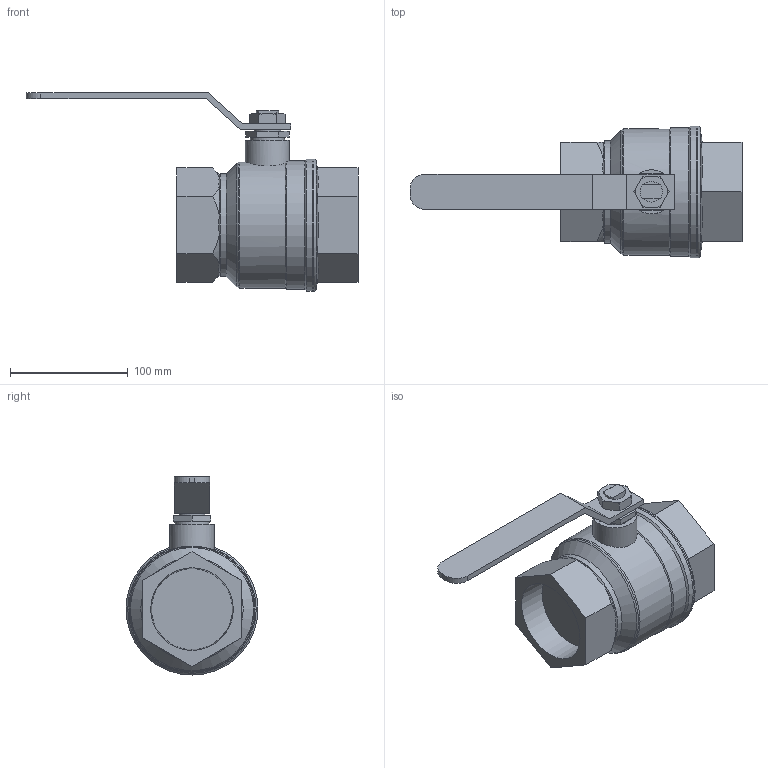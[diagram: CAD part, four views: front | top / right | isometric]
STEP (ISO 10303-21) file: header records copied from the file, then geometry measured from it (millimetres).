
FILE_DESCRIPTION((' '),'2;1');
FILE_NAME('N:\Technical Support\Private\Jomar Valve CAD\Ball Valves\Brass\T-100NE[G]\2.5 T-100NE (100-709)FusionCopy.stp.step','2016-07-28T09:42:32',(' '),(' '),' ','ACIS',' ');
FILE_SCHEMA(('CONFIG_CONTROL_DESIGN'));
Length unit declared in the file: inch
Products named in the file (8): N:\Technical Support\Private\Jomar Valve CAD\Ball Valves\Brass\T-100NE[G]\2.5 T-100NE (100-709)FusionCopy.stp.step; Body1; Body2; Body3; Body4; Body5; Body6; Body7
Assembly tree (7 placements, depth 2):
  N:\Technical Support\Private\Jomar Valve CAD\Ball Valves\Brass\T-100NE[G]\2.5 T-100NE (100-709)FusionCopy.stp.step
    Body1
    Body2
    Body3
    Body4
    Body5
    Body6
    Body7
Bounding box: 281.86 x 112 x 168.18 mm (x, y, z)
Volume: 1049329 mm3; surface area: 121175.3 mm2
Topology: 7 solids, 7 shells, 97 faces, 241 edges, 161 vertices
Faces by surface type: plane 53, cone 26, cylinder 15, bspline 2, torus 1
Full cylindrical faces by diameter (mm): 17.399 x1, 22.53 x1, 28.956 x1, 37.465 x1, 87 x1, 107 x1, 109 x1, 112 x2
Entity records: 3881 total; most frequent: CARTESIAN_POINT 685, ORIENTED_EDGE 432, DIRECTION 430, EDGE_CURVE 216, AXIS2_PLACEMENT_3D 164, VERTEX_POINT 154, EDGE_LOOP 122, VECTOR 102
